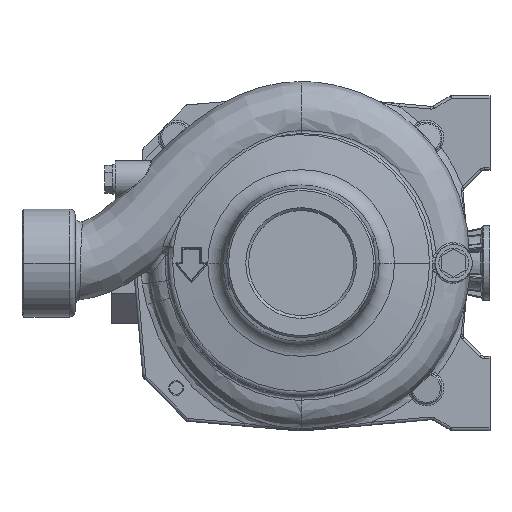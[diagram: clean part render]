
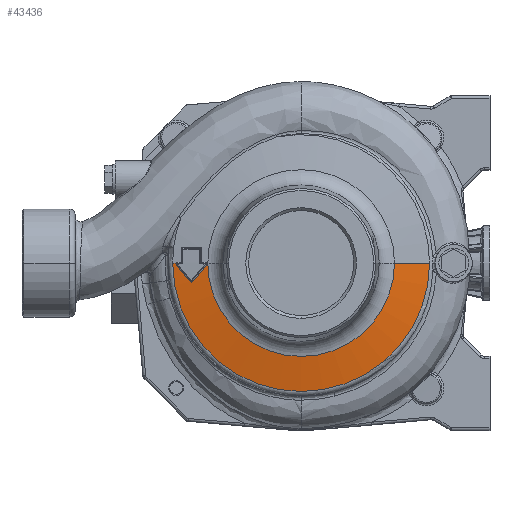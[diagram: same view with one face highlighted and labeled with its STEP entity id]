
A CAD part, left-side view. The second image highlights one B-rep face of the part: STEP entity #43436.
In plain terms, the highlighted conical face has half-angle 80 degrees and reference radius 59.599 mm.
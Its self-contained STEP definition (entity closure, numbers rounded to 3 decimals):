
#30981=CARTESIAN_POINT('',(0.,67.098,
15.222));
#31023=DIRECTION('',(0.,0.985,0.174));
#31024=VECTOR('',#31023,19.134);
#31025=CARTESIAN_POINT('',(0.,-69.021,
14.883));
#31026=LINE('',#31025,#31024);
#31042=CARTESIAN_POINT('',(-1.141,50.828,
18.088));
#31043=CARTESIAN_POINT('',(-1.111,50.803,
18.093));
#31044=CARTESIAN_POINT('',(-1.047,50.756,
18.101));
#31045=CARTESIAN_POINT('',(-0.941,50.695,
18.112));
#31046=CARTESIAN_POINT('',(-0.82,50.644,
18.122));
#31047=CARTESIAN_POINT('',(-0.68,50.607,
18.129));
#31048=CARTESIAN_POINT('',(-0.518,50.59,
18.132));
#31049=CARTESIAN_POINT('',(-0.342,50.601,
18.13));
#31050=CARTESIAN_POINT('',(-0.165,50.646,
18.123));
#31051=CARTESIAN_POINT('',(-0.054,50.697,
18.114));
#31052=CARTESIAN_POINT('',(0.,50.728,
18.108));
#31054=DIRECTION('',(0.,-0.985,0.174));
#31055=VECTOR('',#31054,0.559);
#31056=CARTESIAN_POINT('',(0.,50.728,
18.108));
#31057=LINE('',#31056,#31055);
#31058=CARTESIAN_POINT('',(0.,0.,18.205));
#31059=DIRECTION('',(0.,0.,-1.));
#31060=DIRECTION('',(0.,-1.,0.));
#31061=AXIS2_PLACEMENT_3D('',#31058,#31059,#31060);
#31063=CARTESIAN_POINT('',(0.,0.,14.883));
#31064=DIRECTION('',(0.,0.,1.));
#31065=DIRECTION('',(0.,1.,0.));
#31066=AXIS2_PLACEMENT_3D('',#31063,#31064,#31065);
#31068=DIRECTION('',(0.,-0.985,0.174));
#31069=VECTOR('',#31068,1.953);
#31070=CARTESIAN_POINT('',(0.,69.021,
14.883));
#31071=LINE('',#31070,#31069);
#31072=CARTESIAN_POINT('',(0.,67.098,
15.222));
#31073=CARTESIAN_POINT('',(-0.059,67.132,
15.216));
#31074=CARTESIAN_POINT('',(-0.182,67.187,
15.206));
#31075=CARTESIAN_POINT('',(-0.383,67.232,
15.198));
#31076=CARTESIAN_POINT('',(-0.588,67.235,
15.197));
#31077=CARTESIAN_POINT('',(-0.789,67.196,
15.204));
#31078=CARTESIAN_POINT('',(-0.978,67.117,
15.217));
#31079=CARTESIAN_POINT('',(-1.089,67.042,
15.23));
#31080=CARTESIAN_POINT('',(-1.141,66.998,
15.238));
#31082=CARTESIAN_POINT('',(-1.141,66.998,
15.238));
#31083=CARTESIAN_POINT('',(-2.149,66.152,
15.384));
#31084=CARTESIAN_POINT('',(-4.135,64.483,
15.664));
#31085=CARTESIAN_POINT('',(-7.035,62.046,
16.047));
#31086=CARTESIAN_POINT('',(-8.919,60.463,
16.278));
#31087=CARTESIAN_POINT('',(-9.851,59.68,
16.387));
#31089=CARTESIAN_POINT('',(-9.851,59.68,
16.387));
#31090=CARTESIAN_POINT('',(-9.875,59.66,
16.39));
#31091=CARTESIAN_POINT('',(-9.924,59.615,
16.397));
#31092=CARTESIAN_POINT('',(-9.998,59.531,
16.409));
#31093=CARTESIAN_POINT('',(-10.068,59.429,
16.425));
#31094=CARTESIAN_POINT('',(-10.132,59.306,
16.444));
#31095=CARTESIAN_POINT('',(-10.181,59.161,
16.468));
#31096=CARTESIAN_POINT('',(-10.209,58.993,
16.496));
#31097=CARTESIAN_POINT('',(-10.208,58.809,
16.528));
#31098=CARTESIAN_POINT('',(-10.17,58.621,
16.562));
#31099=CARTESIAN_POINT('',(-10.096,58.443,
16.595));
#31100=CARTESIAN_POINT('',(-9.989,58.281,
16.627));
#31101=CARTESIAN_POINT('',(-9.9,58.19,
16.645));
#31102=CARTESIAN_POINT('',(-9.85,58.148,
16.654));
#31104=CARTESIAN_POINT('',(-9.85,58.148,
16.654));
#31105=CARTESIAN_POINT('',(-8.803,57.268,
16.838));
#31106=CARTESIAN_POINT('',(-6.764,55.554,
17.188));
#31107=CARTESIAN_POINT('',(-3.877,53.129,
17.664));
#31108=CARTESIAN_POINT('',(-2.038,51.583,
17.952));
#31109=CARTESIAN_POINT('',(-1.141,50.828,
18.088));
#32017=CARTESIAN_POINT('',(0.,-50.178,18.205));
#32018=CARTESIAN_POINT('',(0.,50.178,18.205));
#32019=VERTEX_POINT('',#32017);
#32020=VERTEX_POINT('',#32018);
#32073=CARTESIAN_POINT('',(0.,69.021,14.883));
#32074=CARTESIAN_POINT('',(0.,-69.021,14.883));
#32075=VERTEX_POINT('',#32073);
#32076=VERTEX_POINT('',#32074);
#32093=VERTEX_POINT('',#31042);
#32094=VERTEX_POINT('',#31052);
#32119=VERTEX_POINT('',#30981);
#32121=VERTEX_POINT('',#31080);
#32123=VERTEX_POINT('',#31087);
#32125=VERTEX_POINT('',#31102);
#43414=CARTESIAN_POINT('',(0.,0.,16.544));
#43415=DIRECTION('',(0.,0.,-1.));
#43416=DIRECTION('',(0.,-1.,0.));
#43417=AXIS2_PLACEMENT_3D('',#43414,#43415,#43416);
#43418=CONICAL_SURFACE('',#43417,59.6,80.);
#43419=ORIENTED_EDGE('',*,*,#43404,.T.);
#43420=ORIENTED_EDGE('',*,*,#43198,.T.);
#43422=ORIENTED_EDGE('',*,*,#43421,.F.);
#43423=ORIENTED_EDGE('',*,*,#43194,.F.);
#43424=ORIENTED_EDGE('',*,*,#42362,.F.);
#43425=ORIENTED_EDGE('',*,*,#43189,.T.);
#43427=ORIENTED_EDGE('',*,*,#43426,.T.);
#43429=ORIENTED_EDGE('',*,*,#43428,.T.);
#43431=ORIENTED_EDGE('',*,*,#43430,.T.);
#43433=ORIENTED_EDGE('',*,*,#43432,.T.);
#43434=EDGE_LOOP('',(#43419,#43420,#43422,#43423,#43424,#43425,#43427,#43429,
#43431,#43433));
#43435=FACE_OUTER_BOUND('',#43434,.F.);
#31053=B_SPLINE_CURVE_WITH_KNOTS('',3,(#31042,#31043,#31044,#31045,#31046,
#31047,#31048,#31049,#31050,#31051,#31052),.UNSPECIFIED.,.F.,.F.,(4,1,1,1,1,1,1,
1,4),(0.,0.125,0.25,0.375,0.5,0.625,0.75,0.875,1.),
.UNSPECIFIED.);
#31062=CIRCLE('',#31061,50.178);
#31067=CIRCLE('',#31066,69.021);
#31081=B_SPLINE_CURVE_WITH_KNOTS('',3,(#31072,#31073,#31074,#31075,#31076,
#31077,#31078,#31079,#31080),.UNSPECIFIED.,.F.,.F.,(4,1,1,1,1,1,4),(0.,
0.167,0.333,0.5,0.667,0.833,
1.),.UNSPECIFIED.);
#31088=B_SPLINE_CURVE_WITH_KNOTS('',3,(#31082,#31083,#31084,#31085,#31086,
#31087),.UNSPECIFIED.,.F.,.F.,(4,1,1,4),(0.,0.333,
0.667,1.),.UNSPECIFIED.);
#31103=B_SPLINE_CURVE_WITH_KNOTS('',3,(#31089,#31090,#31091,#31092,#31093,
#31094,#31095,#31096,#31097,#31098,#31099,#31100,#31101,#31102),.UNSPECIFIED.,
.F.,.F.,(4,1,1,1,1,1,1,1,1,1,1,4),(0.,0.091,0.182,
0.273,0.364,0.455,0.545,
0.636,0.727,0.818,0.909,1.),
.UNSPECIFIED.);
#31110=B_SPLINE_CURVE_WITH_KNOTS('',3,(#31104,#31105,#31106,#31107,#31108,
#31109),.UNSPECIFIED.,.F.,.F.,(4,1,1,4),(0.,0.333,
0.667,1.),.UNSPECIFIED.);
#42362=EDGE_CURVE('',#32075,#32076,#31067,.T.);
#43189=EDGE_CURVE('',#32075,#32119,#31071,.T.);
#43194=EDGE_CURVE('',#32076,#32019,#31026,.T.);
#43198=EDGE_CURVE('',#32094,#32020,#31057,.T.);
#43404=EDGE_CURVE('',#32093,#32094,#31053,.T.);
#43421=EDGE_CURVE('',#32019,#32020,#31062,.T.);
#43426=EDGE_CURVE('',#32119,#32121,#31081,.T.);
#43428=EDGE_CURVE('',#32121,#32123,#31088,.T.);
#43430=EDGE_CURVE('',#32123,#32125,#31103,.T.);
#43432=EDGE_CURVE('',#32125,#32093,#31110,.T.);
#43436=ADVANCED_FACE('',(#43435),#43418,.T.);
